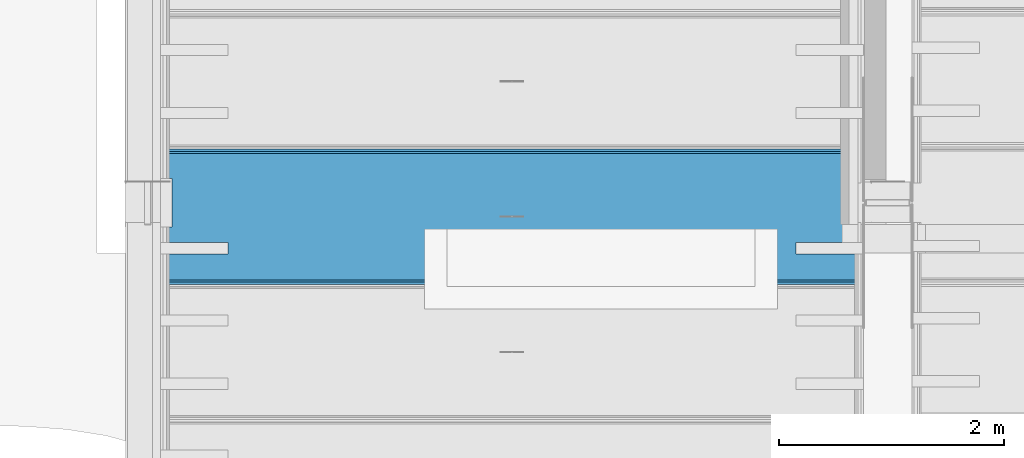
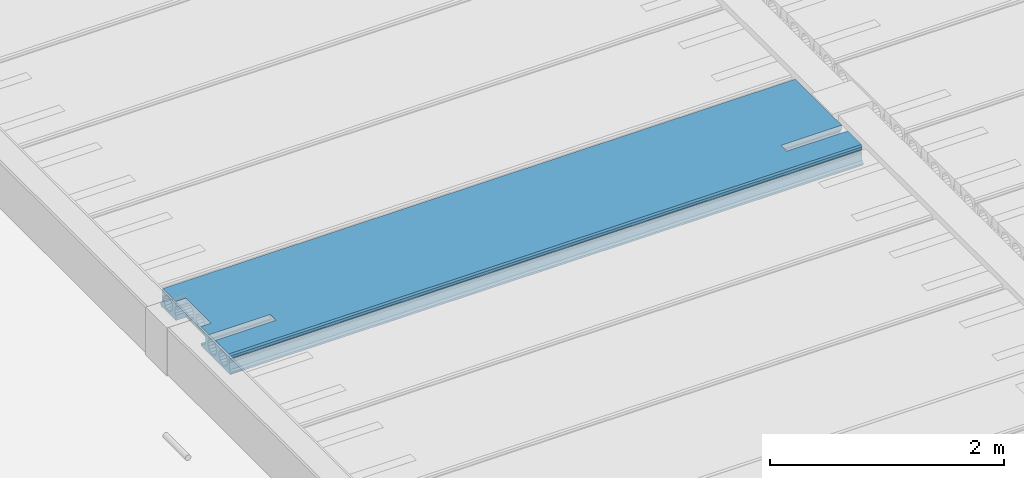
# One storey, part 77 of 230: 1 beam.
"""IFC4X3_ADD2 building model written with IfcOpenShell, lengths in millimetres."""

from ifc_helpers import new_model, si_unit, direction, origin_with_axes, place, context, subcontext, project, spatial, polygons, element, save


model = new_model("IFC4X3_ADD2")

# Units and contexts
model_context = context("Model", 3, precision=1e-05, world=origin_with_axes(), true_north=direction((0.0, 1.0)))
body_context = subcontext(model_context, "Body", "Model", "MODEL_VIEW")
ifc_project = project(units=[si_unit("LENGTHUNIT", "METRE", prefix="MILLI"), si_unit("AREAUNIT", "SQUARE_METRE"), si_unit("VOLUMEUNIT", "CUBIC_METRE"), si_unit("PLANEANGLEUNIT", "RADIAN"), si_unit("TIMEUNIT", "SECOND"), si_unit("MASSUNIT", "GRAM")], contexts=[model_context])

# Site, building, storey
site_placement = place(None, origin_with_axes())
site = spatial("IfcSite", under=ifc_project, at=site_placement, Name="Site", CompositionType="ELEMENT")
building_placement = place(site_placement, origin_with_axes())
building = spatial("IfcBuilding", under=site, at=building_placement, Name="IFC Building Story")
storey_placement = place(building_placement, origin_with_axes())
storey = spatial("IfcBuildingStorey", under=building, at=storey_placement, Name="ETAGE 00 (0)", Elevation=0.0)

# Beam
beam_placement = place(storey_placement, origin_with_axes())
element("IfcBeam", 1, at=beam_placement, inside=storey, Name="HOLLOWCORE SLAB", ObjectType="EB_SP200", context=body_context, shape_type="Tessellation", body=[
    polygons([(33515.6922247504, -7597.999771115, 4199.9999909), (33515.6922247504, -7582.711067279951, 4185.002769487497), (33515.6922247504, -7582.22975158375, 4159.9999909), (33515.6922247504, -7589.418407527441, 4151.036789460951), (33515.6922247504, -7591.83970112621, 4139.805000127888), (33515.6922247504, -7588.98239259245, 4128.676139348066), (33515.6922247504, -7581.44978332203, 4119.9999909), (33515.6922247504, -7579.999771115, 4044.9999909), (33515.6922247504, -7559.999771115, 4029.9999909), (33515.6922247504, -7559.999771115, 4012.9999909), (33515.6922247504, -7570.999771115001, 3999.9999909), (33515.6922247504, -7819.999771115, 3999.9999909), (33515.6922247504, -7819.999771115, 4055.283293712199), (33515.6922247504, -7809.170745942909, 4071.490075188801), (33515.6922247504, -7803.499771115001, 4099.9999909), (33515.6922247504, -7809.17074594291, 4128.509906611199), (33515.6922247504, -7819.999771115, 4144.7166880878), (33515.6922247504, -7819.999771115, 4199.9999909), (33515.6922247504, -7637.3203159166, 4152.679446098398), (33515.6922247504, -7661.489855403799, 4168.829016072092), (33515.6922247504, -7689.999771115, 4174.4999909), (33515.6922247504, -7718.509686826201, 4168.829016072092), (33515.6922247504, -7742.679226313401, 4152.679446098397), (33515.6922247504, -7758.82879628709, 4128.509906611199), (33515.6922247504, -7764.499771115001, 4099.9999909), (33515.6922247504, -7758.82879628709, 4071.490075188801), (33515.6922247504, -7742.679226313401, 4047.320535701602), (33515.6922247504, -7718.509686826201, 4031.170965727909), (33515.6922247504, -7689.999771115, 4025.4999909), (33515.6922247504, -7661.489855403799, 4031.170965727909), (33515.6922247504, -7637.3203159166, 4047.320535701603), (33515.6922247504, -7621.17074594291, 4071.490075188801), (33515.6922247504, -7615.499771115, 4099.9999909), (33515.6922247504, -7621.17074594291, 4128.509906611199), (39750.6922247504, -7570.999771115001, 3999.9999909), (39750.6922247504, -7559.999771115, 4012.9999909), (39750.6922247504, -7559.999771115, 4029.9999909), (39750.6922247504, -7579.999771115, 4044.9999909), (39750.6922247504, -7581.44978332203, 4119.9999909), (39750.6922247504, -7588.98239259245, 4128.676139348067), (39750.6922247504, -7591.83970112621, 4139.805000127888), (39750.6922247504, -7589.418407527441, 4151.036789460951), (39750.6922247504, -7582.22975158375, 4159.9999909), (39750.6922247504, -7582.711067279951, 4185.002769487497), (39750.6922247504, -7597.999771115, 4199.9999909), (39750.6922247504, -8389.999771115, 4199.9999909), (39750.6922247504, -8389.999771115, 4153.13344354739), (39750.6922247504, -8389.320315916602, 4152.679446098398), (39750.6922247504, -8373.170745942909, 4128.509906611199), (39750.6922247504, -8367.499771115, 4099.9999909), (39750.6922247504, -8373.170745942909, 4071.490075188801), (39750.6922247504, -8389.320315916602, 4047.320535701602), (39750.6922247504, -8413.4898554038, 4031.170965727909), (39750.6922247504, -8441.999771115, 4025.4999909), (39750.6922247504, -8470.509686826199, 4031.170965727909), (39750.6922247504, -8494.679226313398, 4047.320535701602), (39750.6922247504, -8510.82879628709, 4071.490075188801), (39750.6922247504, -8516.499771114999, 4099.9999909), (39750.6922247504, -8510.82879628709, 4128.509906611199), (39750.6922247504, -8494.679226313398, 4152.679446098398), (39750.6922247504, -8489.999771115, 4155.806158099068), (39750.6922247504, -8489.999771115, 4199.9999909), (39750.6922247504, -8721.999771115, 4199.9999909), (39750.6922247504, -8737.288474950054, 4185.002769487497), (39750.6922247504, -8737.76979064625, 4159.9999909), (39750.6922247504, -8730.581134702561, 4151.036789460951), (39750.6922247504, -8728.15984110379, 4139.805000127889), (39750.6922247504, -8731.017149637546, 4128.676139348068), (39750.6922247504, -8738.54975890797, 4119.9999909), (39750.6922247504, -8739.999771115, 4044.9999909), (39750.6922247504, -8759.999771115, 4029.9999909), (39750.6922247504, -8759.999771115, 4012.9999909), (39750.6922247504, -8748.999771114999, 3999.9999909), (39750.6922247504, -7637.3203159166, 4152.679446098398), (39750.6922247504, -7621.17074594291, 4128.509906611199), (39750.6922247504, -7615.499771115, 4099.9999909), (39750.6922247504, -7621.17074594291, 4071.490075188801), (39750.6922247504, -7637.3203159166, 4047.320535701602), (39750.6922247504, -7661.489855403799, 4031.170965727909), (39750.6922247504, -7689.999771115, 4025.4999909), (39750.6922247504, -7718.509686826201, 4031.170965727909), (39750.6922247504, -7742.679226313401, 4047.320535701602), (39750.6922247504, -7758.82879628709, 4071.490075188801), (39750.6922247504, -7764.499771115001, 4099.9999909), (39750.6922247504, -7758.82879628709, 4128.509906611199), (39750.6922247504, -7742.679226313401, 4152.679446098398), (39750.6922247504, -7718.509686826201, 4168.829016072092), (39750.6922247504, -7689.999771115, 4174.4999909), (39750.6922247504, -7661.489855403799, 4168.829016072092), (39750.6922247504, -7825.320315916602, 4152.679446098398), (39750.6922247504, -7809.170745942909, 4128.509906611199), (39750.6922247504, -7803.499771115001, 4099.9999909), (39750.6922247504, -7809.170745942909, 4071.490075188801), (39750.6922247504, -7825.320315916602, 4047.320535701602), (39750.6922247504, -7849.489855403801, 4031.170965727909), (39750.6922247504, -7877.999771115, 4025.4999909), (39750.6922247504, -7906.509686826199, 4031.170965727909), (39750.6922247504, -7930.679226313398, 4047.320535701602), (39750.6922247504, -7946.828796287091, 4071.490075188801), (39750.6922247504, -7952.499771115, 4099.9999909), (39750.6922247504, -7946.828796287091, 4128.509906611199), (39750.6922247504, -7930.679226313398, 4152.679446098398), (39750.6922247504, -7906.509686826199, 4168.829016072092), (39750.6922247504, -7877.999771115, 4174.4999909), (39750.6922247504, -7849.489855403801, 4168.829016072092), (39750.6922247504, -8013.320315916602, 4152.679446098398), (39750.6922247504, -7997.170745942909, 4128.509906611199), (39750.6922247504, -7991.499771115, 4099.9999909), (39750.6922247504, -7997.170745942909, 4071.490075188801), (39750.6922247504, -8013.320315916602, 4047.320535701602), (39750.6922247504, -8037.489855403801, 4031.170965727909), (39750.6922247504, -8065.999771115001, 4025.4999909), (39750.6922247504, -8094.509686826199, 4031.170965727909), (39750.6922247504, -8118.679226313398, 4047.320535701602), (39750.6922247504, -8134.828796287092, 4071.490075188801), (39750.6922247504, -8140.499771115, 4099.9999909), (39750.6922247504, -8134.828796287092, 4128.509906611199), (39750.6922247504, -8118.679226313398, 4152.679446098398), (39750.6922247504, -8094.509686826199, 4168.829016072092), (39750.6922247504, -8065.999771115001, 4174.4999909), (39750.6922247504, -8037.489855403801, 4168.829016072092), (39750.6922247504, -8201.320315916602, 4152.679446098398), (39750.6922247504, -8185.170745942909, 4128.509906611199), (39750.6922247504, -8179.499771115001, 4099.9999909), (39750.6922247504, -8185.170745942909, 4071.490075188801), (39750.6922247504, -8201.320315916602, 4047.320535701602), (39750.6922247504, -8225.4898554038, 4031.170965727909), (39750.6922247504, -8253.999771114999, 4025.4999909), (39750.6922247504, -8282.509686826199, 4031.170965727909), (39750.6922247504, -8306.679226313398, 4047.320535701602), (39750.6922247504, -8322.82879628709, 4071.490075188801), (39750.6922247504, -8328.499771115, 4099.9999909), (39750.6922247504, -8322.82879628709, 4128.509906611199), (39750.6922247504, -8306.679226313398, 4152.679446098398), (39750.6922247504, -8282.509686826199, 4168.829016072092), (39750.6922247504, -8253.999771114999, 4174.4999909), (39750.6922247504, -8225.4898554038, 4168.829016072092), (39750.6922247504, -8577.3203159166, 4152.679446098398), (39750.6922247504, -8561.170745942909, 4128.509906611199), (39750.6922247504, -8555.499771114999, 4099.9999909), (39750.6922247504, -8561.170745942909, 4071.490075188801), (39750.6922247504, -8577.3203159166, 4047.320535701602), (39750.6922247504, -8601.4898554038, 4031.170965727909), (39750.6922247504, -8629.999771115, 4025.4999909), (39750.6922247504, -8658.509686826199, 4031.170965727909), (39750.6922247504, -8682.679226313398, 4047.320535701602), (39750.6922247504, -8698.82879628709, 4071.490075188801), (39750.6922247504, -8704.499771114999, 4099.9999909), (39750.6922247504, -8698.82879628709, 4128.509906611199), (39750.6922247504, -8682.679226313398, 4152.679446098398), (39750.6922247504, -8658.509686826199, 4168.829016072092), (39750.6922247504, -8629.999771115, 4174.4999909), (39750.6922247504, -8601.4898554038, 4168.829016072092), (33515.6922247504, -8748.999771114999, 3999.9999909), (33515.6922247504, -8249.999771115, 3999.9999909), (33615.6922247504, -8249.999771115, 3999.9999909), (33615.6922247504, -7819.999771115, 3999.9999909), (33515.6922247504, -8759.999771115, 4012.9999909), (33515.6922247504, -8759.999771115, 4029.9999909), (33515.6922247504, -8739.999771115, 4044.9999909), (33515.6922247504, -8738.54975890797, 4119.9999909), (33515.6922247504, -8731.017149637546, 4128.676139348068), (33515.6922247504, -8728.15984110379, 4139.805000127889), (33515.6922247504, -8730.581134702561, 4151.036789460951), (33515.6922247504, -8737.76979064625, 4159.9999909), (33515.6922247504, -8737.288474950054, 4185.002769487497), (33515.6922247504, -8721.999771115, 4199.9999909), (33615.6922247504, -7819.999771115, 4199.9999909), (33615.6922247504, -8249.999771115, 4199.9999909), (33515.6922247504, -8249.999771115, 4199.9999909), (33515.6922247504, -8389.999771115, 4199.9999909), (34115.6922247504, -8389.999771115, 4199.9999909), (34115.6922247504, -8489.999771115, 4199.9999909), (33515.6922247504, -8489.999771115, 4199.9999909), (39150.69222475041, -8489.999771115, 4199.9999909), (39150.69222475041, -8389.999771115, 4199.9999909), (33615.6922247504, -7849.489855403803, 4168.829016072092), (33615.6922247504, -7825.320315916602, 4152.679446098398), (33615.6922247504, -7877.999771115, 4174.4999909), (33615.6922247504, -7906.509686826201, 4168.82901607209), (33615.6922247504, -7930.679226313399, 4152.679446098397), (33615.6922247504, -7946.828796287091, 4128.509906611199), (33615.6922247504, -7952.499771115, 4099.9999909), (33615.6922247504, -7946.828796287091, 4071.490075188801), (33615.6922247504, -7930.679226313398, 4047.320535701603), (33615.6922247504, -7906.509686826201, 4031.17096572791), (33615.6922247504, -7877.999771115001, 4025.4999909), (33615.6922247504, -7849.489855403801, 4031.170965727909), (33615.6922247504, -7825.320315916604, 4047.320535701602), (33615.6922247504, -7819.999771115, 4055.283293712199), (33615.6922247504, -7819.999771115, 4144.7166880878), (33615.6922247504, -8037.489855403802, 4168.829016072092), (33615.6922247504, -8013.320315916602, 4152.679446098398), (33615.6922247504, -8065.999771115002, 4174.4999909), (33615.6922247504, -8094.5096868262, 4168.829016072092), (33615.6922247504, -8118.679226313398, 4152.679446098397), (33615.6922247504, -8134.828796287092, 4128.509906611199), (33615.6922247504, -8140.499771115, 4099.9999909), (33615.6922247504, -8134.828796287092, 4071.490075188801), (33615.6922247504, -8118.679226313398, 4047.320535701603), (33615.6922247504, -8094.5096868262, 4031.170965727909), (33615.6922247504, -8065.999771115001, 4025.4999909), (33615.6922247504, -8037.489855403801, 4031.170965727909), (33615.6922247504, -8013.320315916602, 4047.320535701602), (33615.6922247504, -7997.170745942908, 4071.490075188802), (33615.6922247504, -7991.499771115, 4099.9999909), (33615.6922247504, -7997.170745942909, 4128.5099066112), (33615.6922247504, -8225.4898554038, 4168.829016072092), (33615.6922247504, -8201.320315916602, 4152.679446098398), (33515.6922247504, -8253.999771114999, 4174.4999909), (33515.6922247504, -8249.999771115, 4173.704341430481), (33615.6922247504, -8249.999771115, 4173.704341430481), (33515.6922247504, -8282.509686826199, 4168.829016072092), (33515.6922247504, -8306.679226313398, 4152.679446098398), (33515.6922247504, -8322.82879628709, 4128.509906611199), (33515.6922247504, -8328.499771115, 4099.9999909), (33515.6922247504, -8322.82879628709, 4071.490075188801), (33515.6922247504, -8306.679226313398, 4047.320535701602), (33515.6922247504, -8282.509686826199, 4031.170965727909), (33515.6922247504, -8253.999771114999, 4025.4999909), (33515.6922247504, -8249.999771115, 4026.295640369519), (33615.6922247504, -8225.489855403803, 4031.170965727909), (33615.6922247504, -8249.999771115, 4026.295640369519), (33615.6922247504, -8201.320315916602, 4047.320535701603), (33615.6922247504, -8185.170745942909, 4071.490075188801), (33615.6922247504, -8179.499771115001, 4099.9999909), (33615.6922247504, -8185.170745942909, 4128.509906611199), (39150.69222475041, -8389.999771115, 4153.133443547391), (39150.69222475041, -8413.4898554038, 4168.829016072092), (34115.6922247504, -8413.489855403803, 4168.829016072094), (34115.6922247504, -8389.999771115, 4153.13344354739), (33515.6922247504, -8389.999771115, 4153.13344354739), (33515.6922247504, -8389.320315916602, 4152.679446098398), (39150.69222475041, -8441.999771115, 4174.4999909), (34115.6922247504, -8441.999771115, 4174.4999909), (39150.69222475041, -8470.509686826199, 4168.829016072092), (34115.6922247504, -8470.509686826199, 4168.829016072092), (33515.6922247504, -8494.679226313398, 4152.679446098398), (33515.6922247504, -8489.999771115, 4155.806158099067), (34115.6922247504, -8489.999771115, 4155.806158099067), (39150.69222475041, -8489.999771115, 4155.806158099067), (33515.6922247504, -8510.82879628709, 4128.509906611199), (33515.6922247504, -8516.499771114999, 4099.9999909), (33515.6922247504, -8510.82879628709, 4071.490075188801), (33515.6922247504, -8494.679226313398, 4047.320535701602), (33515.6922247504, -8470.509686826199, 4031.170965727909), (33515.6922247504, -8441.999771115, 4025.4999909), (33515.6922247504, -8413.4898554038, 4031.170965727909), (33515.6922247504, -8389.320315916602, 4047.320535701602), (33515.6922247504, -8373.170745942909, 4071.490075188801), (33515.6922247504, -8367.499771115, 4099.9999909), (33515.6922247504, -8373.170745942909, 4128.509906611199), (33515.6922247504, -8601.4898554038, 4168.829016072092), (33515.6922247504, -8577.3203159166, 4152.679446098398), (33515.6922247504, -8629.999771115, 4174.4999909), (33515.6922247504, -8658.509686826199, 4168.829016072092), (33515.6922247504, -8682.679226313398, 4152.679446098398), (33515.6922247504, -8698.82879628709, 4128.509906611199), (33515.6922247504, -8704.499771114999, 4099.9999909), (33515.6922247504, -8698.82879628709, 4071.490075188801), (33515.6922247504, -8682.679226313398, 4047.320535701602), (33515.6922247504, -8658.509686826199, 4031.170965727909), (33515.6922247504, -8629.999771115, 4025.4999909), (33515.6922247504, -8601.4898554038, 4031.170965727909), (33515.6922247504, -8577.3203159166, 4047.320535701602), (33515.6922247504, -8561.170745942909, 4071.490075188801), (33515.6922247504, -8555.499771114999, 4099.9999909), (33515.6922247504, -8561.170745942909, 4128.509906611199), (33615.6922247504, -7819.999771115, 3999.9999969), (33615.6922247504, -8249.999771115, 3999.9999969), (33615.6922247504, -7819.999771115, 4199.999996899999), (39150.69222475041, -8389.999771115, 4199.999996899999), (39150.69222475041, -8489.999771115, 4199.999996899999), (34115.6922247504, -8489.999771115, 4199.999996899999), (34115.6922247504, -8389.999771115, 4199.999996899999), (33615.6922247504, -8249.999771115, 4199.999996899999)], [[[8, 9, 10]], [[8, 10, 11]], [[16, 17, 18]], [[24, 25, 15]], [[24, 15, 16]], [[16, 18, 23]], [[16, 23, 24]], [[18, 22, 23]], [[18, 21, 22]], [[18, 1, 21]], [[1, 20, 21]], [[1, 19, 20]], [[25, 26, 14]], [[25, 14, 15]], [[33, 34, 6]], [[33, 6, 7]], [[7, 8, 32]], [[7, 32, 33]], [[8, 11, 31]], [[8, 31, 32]], [[11, 30, 31]], [[11, 29, 30]], [[29, 11, 12]], [[12, 28, 29]], [[12, 27, 28]], [[12, 14, 26]], [[12, 26, 27]], [[12, 13, 14]], [[34, 5, 6]], [[34, 19, 4]], [[34, 4, 5]], [[19, 1, 2]], [[19, 2, 3]], [[19, 3, 4]], [[70, 71, 72]], [[70, 72, 73]], [[42, 43, 44]], [[42, 44, 45]], [[42, 45, 74]], [[74, 75, 41]], [[74, 41, 42]], [[75, 40, 41]], [[77, 78, 38]], [[38, 39, 76]], [[38, 76, 77]], [[39, 40, 75]], [[39, 75, 76]], [[89, 74, 45]], [[45, 88, 89]], [[45, 87, 88]], [[45, 90, 87]], [[90, 86, 87]], [[90, 85, 86]], [[91, 92, 84]], [[91, 84, 85]], [[85, 90, 91]], [[93, 94, 83]], [[83, 84, 92]], [[83, 92, 93]], [[94, 95, 82]], [[94, 82, 83]], [[95, 81, 82]], [[101, 102, 106]], [[107, 108, 100]], [[107, 100, 101]], [[101, 106, 107]], [[109, 110, 99]], [[99, 100, 108]], [[99, 108, 109]], [[110, 98, 99]], [[117, 118, 122]], [[123, 124, 116]], [[123, 116, 117]], [[117, 122, 123]], [[125, 126, 115]], [[115, 116, 124]], [[115, 124, 125]], [[126, 114, 115]], [[105, 90, 45]], [[45, 104, 105]], [[45, 121, 104]], [[121, 103, 104]], [[121, 106, 102]], [[121, 102, 103]], [[45, 120, 121]], [[45, 137, 120]], [[137, 119, 120]], [[137, 122, 118]], [[137, 118, 119]], [[45, 136, 137]], [[45, 46, 136]], [[46, 135, 136]], [[46, 134, 135]], [[46, 47, 133]], [[46, 133, 134]], [[49, 50, 132]], [[49, 132, 133]], [[133, 48, 49]], [[133, 47, 48]], [[51, 52, 131]], [[131, 132, 50]], [[131, 50, 51]], [[52, 130, 131]], [[60, 61, 62]], [[62, 138, 59]], [[62, 59, 60]], [[139, 140, 58]], [[139, 58, 59]], [[59, 138, 139]], [[141, 142, 57]], [[57, 58, 140]], [[57, 140, 141]], [[148, 149, 68]], [[148, 68, 69]], [[69, 70, 147]], [[69, 147, 148]], [[70, 73, 146]], [[70, 146, 147]], [[73, 145, 146]], [[73, 144, 145]], [[73, 143, 144]], [[73, 56, 143]], [[56, 57, 142]], [[56, 142, 143]], [[73, 55, 56]], [[73, 54, 55]], [[73, 129, 54]], [[129, 53, 54]], [[129, 130, 52]], [[129, 52, 53]], [[73, 128, 129]], [[73, 113, 128]], [[113, 127, 128]], [[113, 114, 126]], [[113, 126, 127]], [[73, 112, 113]], [[73, 97, 112]], [[97, 111, 112]], [[97, 98, 110]], [[97, 110, 111]], [[73, 96, 97]], [[73, 80, 96]], [[80, 81, 95]], [[80, 95, 96]], [[73, 35, 80]], [[35, 79, 80]], [[35, 38, 78]], [[35, 78, 79]], [[35, 36, 37]], [[35, 37, 38]], [[149, 67, 68]], [[153, 138, 62]], [[62, 152, 153]], [[62, 63, 152]], [[63, 151, 152]], [[63, 66, 150]], [[63, 150, 151]], [[66, 67, 149]], [[66, 149, 150]], [[63, 64, 65]], [[63, 65, 66]], [[157, 12, 11]], [[157, 11, 35]], [[35, 73, 156]], [[35, 156, 157]], [[73, 154, 156]], [[154, 155, 156]], [[158, 154, 73, 72]], [[159, 158, 72, 71]], [[160, 159, 71, 70]], [[161, 160, 70, 69]], [[162, 161, 69, 68]], [[163, 162, 68, 67]], [[164, 163, 67, 66]], [[165, 164, 66, 65]], [[166, 165, 65, 64]], [[167, 166, 64, 63]], [[169, 170, 171]], [[173, 174, 167]], [[173, 167, 63]], [[63, 172, 173]], [[176, 46, 45]], [[176, 45, 168]], [[168, 175, 176]], [[168, 172, 63]], [[168, 63, 175]], [[63, 62, 175]], [[169, 171, 172]], [[172, 168, 169]], [[45, 1, 168]], [[1, 18, 168]], [[2, 1, 45, 44]], [[3, 2, 44, 43]], [[4, 3, 43, 42]], [[5, 4, 42, 41]], [[6, 5, 41, 40]], [[7, 6, 40, 39]], [[8, 7, 39, 38]], [[9, 8, 38, 37]], [[10, 9, 37, 36]], [[11, 10, 36, 35]], [[20, 19, 74, 89]], [[21, 20, 89, 88]], [[22, 21, 88, 87]], [[23, 22, 87, 86]], [[24, 23, 86, 85]], [[25, 24, 85, 84]], [[26, 25, 84, 83]], [[27, 26, 83, 82]], [[28, 27, 82, 81]], [[29, 28, 81, 80]], [[30, 29, 80, 79]], [[31, 30, 79, 78]], [[32, 31, 78, 77]], [[33, 32, 77, 76]], [[34, 33, 76, 75]], [[19, 34, 75, 74]], [[90, 105, 177, 178]], [[105, 104, 179, 177]], [[104, 103, 180, 179]], [[103, 102, 181, 180]], [[102, 101, 182, 181]], [[101, 100, 183, 182]], [[100, 99, 184, 183]], [[99, 98, 185, 184]], [[98, 97, 186, 185]], [[97, 96, 187, 186]], [[96, 95, 188, 187]], [[95, 94, 189, 188]], [[190, 189, 94]], [[94, 93, 14]], [[94, 14, 190]], [[14, 13, 190]], [[15, 14, 93, 92]], [[16, 15, 92, 91]], [[191, 17, 16]], [[191, 16, 91]], [[191, 91, 90]], [[90, 178, 191]], [[106, 121, 192, 193]], [[121, 120, 194, 192]], [[120, 119, 195, 194]], [[119, 118, 196, 195]], [[118, 117, 197, 196]], [[117, 116, 198, 197]], [[116, 115, 199, 198]], [[115, 114, 200, 199]], [[114, 113, 201, 200]], [[113, 112, 202, 201]], [[112, 111, 203, 202]], [[111, 110, 204, 203]], [[110, 109, 205, 204]], [[109, 108, 206, 205]], [[108, 107, 207, 206]], [[107, 106, 193, 207]], [[122, 137, 208, 209]], [[212, 208, 137]], [[212, 137, 136]], [[136, 210, 212]], [[210, 211, 212]], [[213, 210, 136, 135]], [[214, 213, 135, 134]], [[215, 214, 134, 133]], [[216, 215, 133, 132]], [[217, 216, 132, 131]], [[218, 217, 131, 130]], [[219, 218, 130, 129]], [[220, 219, 129, 128]], [[223, 221, 220]], [[223, 220, 128]], [[128, 127, 222]], [[128, 222, 223]], [[127, 126, 224, 222]], [[126, 125, 225, 224]], [[125, 124, 226, 225]], [[124, 123, 227, 226]], [[123, 122, 209, 227]], [[231, 232, 233]], [[231, 233, 228]], [[228, 229, 230]], [[228, 230, 231]], [[233, 48, 228]], [[48, 47, 228]], [[229, 234, 235, 230]], [[234, 236, 237, 235]], [[241, 61, 60]], [[241, 60, 240]], [[240, 237, 236]], [[240, 236, 241]], [[60, 238, 240]], [[238, 239, 240]], [[242, 238, 60, 59]], [[243, 242, 59, 58]], [[244, 243, 58, 57]], [[245, 244, 57, 56]], [[246, 245, 56, 55]], [[247, 246, 55, 54]], [[248, 247, 54, 53]], [[249, 248, 53, 52]], [[250, 249, 52, 51]], [[251, 250, 51, 50]], [[252, 251, 50, 49]], [[233, 252, 49, 48]], [[253, 254, 138, 153]], [[255, 253, 153, 152]], [[256, 255, 152, 151]], [[257, 256, 151, 150]], [[258, 257, 150, 149]], [[259, 258, 149, 148]], [[260, 259, 148, 147]], [[261, 260, 147, 146]], [[262, 261, 146, 145]], [[263, 262, 145, 144]], [[264, 263, 144, 143]], [[265, 264, 143, 142]], [[266, 265, 142, 141]], [[267, 266, 141, 140]], [[268, 267, 140, 139]], [[254, 268, 139, 138]], [[13, 12, 269, 190]], [[155, 221, 223, 156]], [[189, 190, 157]], [[157, 188, 189]], [[157, 187, 188]], [[157, 186, 187]], [[208, 212, 169]], [[169, 209, 208]], [[209, 169, 195]], [[209, 195, 196]], [[196, 227, 209]], [[169, 194, 195]], [[194, 169, 271]], [[271, 192, 194]], [[271, 193, 192]], [[197, 198, 226]], [[197, 226, 227]], [[227, 196, 197]], [[198, 199, 225]], [[198, 225, 226]], [[199, 224, 225]], [[186, 157, 203]], [[186, 203, 204]], [[204, 185, 186]], [[157, 202, 203]], [[157, 270, 202]], [[270, 201, 202]], [[270, 200, 201]], [[270, 224, 199]], [[270, 199, 200]], [[270, 222, 224]], [[270, 223, 222]], [[204, 184, 185]], [[205, 206, 183]], [[205, 183, 184]], [[184, 204, 205]], [[206, 207, 182]], [[206, 182, 183]], [[207, 181, 182]], [[207, 180, 181]], [[180, 207, 193]], [[193, 271, 180]], [[271, 179, 180]], [[271, 177, 179]], [[271, 178, 177]], [[271, 191, 178]], [[62, 61, 241, 175]], [[47, 46, 272, 228]], [[229, 228, 176]], [[176, 273, 234]], [[176, 234, 229]], [[273, 236, 234]], [[273, 241, 236]], [[231, 172, 171, 232]], [[274, 240, 239, 174]], [[237, 240, 173]], [[173, 235, 237]], [[173, 275, 230]], [[173, 230, 235]], [[275, 231, 230]], [[211, 170, 276, 212]], [[18, 17, 191, 168]], [[233, 232, 171]], [[213, 214, 252]], [[213, 252, 233]], [[213, 233, 171]], [[213, 171, 170]], [[170, 210, 213]], [[170, 211, 210]], [[215, 216, 251]], [[215, 251, 252]], [[252, 214, 215]], [[217, 218, 250]], [[250, 251, 216]], [[250, 216, 217]], [[220, 221, 155]], [[155, 219, 220]], [[155, 249, 250]], [[155, 250, 218]], [[155, 218, 219]], [[155, 248, 249]], [[155, 247, 248]], [[247, 155, 154]], [[154, 246, 247]], [[154, 245, 246]], [[164, 165, 166]], [[164, 166, 167]], [[257, 258, 163]], [[257, 163, 164]], [[164, 167, 256]], [[164, 256, 257]], [[167, 255, 256]], [[255, 167, 174]], [[174, 253, 255]], [[174, 254, 253]], [[258, 162, 163]], [[260, 261, 160]], [[160, 161, 259]], [[160, 259, 260]], [[161, 162, 258]], [[161, 258, 259]], [[264, 265, 244]], [[264, 244, 245]], [[245, 263, 264]], [[245, 154, 263]], [[154, 262, 263]], [[154, 160, 261]], [[154, 261, 262]], [[154, 158, 159]], [[154, 159, 160]], [[266, 267, 243]], [[266, 243, 244]], [[244, 265, 266]], [[268, 254, 242]], [[242, 243, 267]], [[242, 267, 268]], [[254, 174, 238]], [[254, 238, 242]], [[174, 239, 238]]]),
])

save(model, "model.ifc")
